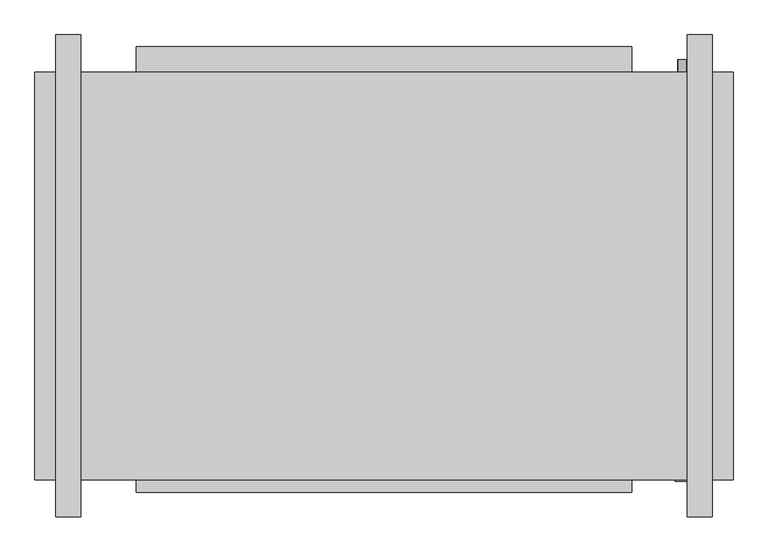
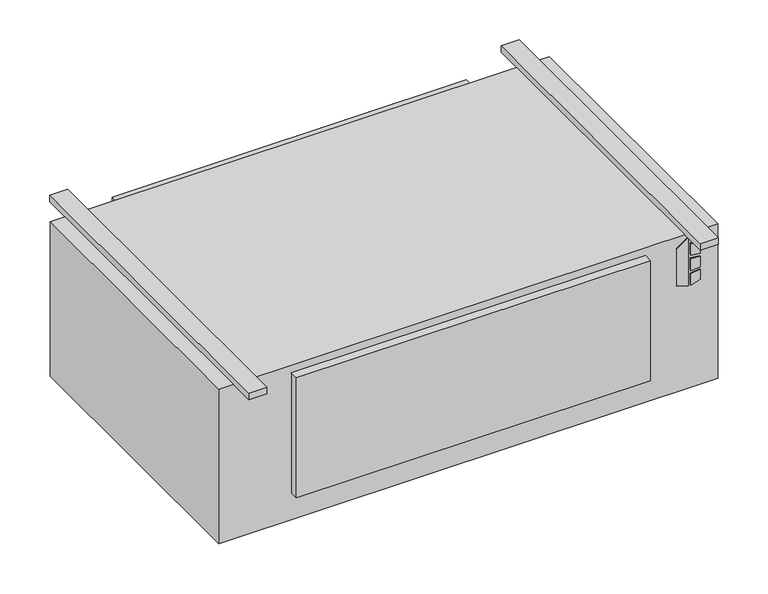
"""IFC4 building model written with IfcOpenShell, lengths in millimetres: proxy geometry, Concealed_High_Capacity_Horizontal_Cabinet_Fan_Coil_Unit_-_HXY_-_IEC_-_2-Pipe_Cool-EHeat_RH_2022 : Size 16 - 277v/60Hz/1Ph - 6 Row 12.0kW."""

from ifc_helpers import new_model, si_unit, point, frame, frame_2d, origin, origin_with_axes, place, context, project, spatial, polyline, circle_curve, trimmed, segment, composite_curve, outline, extrude, source, transform, mapped, element, save


def mechanical_equipment_deb2db8a(model_context):
    return source(origin(), model_context, "Body", "SweptSolid", [
        extrude(outline(polyline([(-142.4519297, 735.0868862), (-152.4, 767.2602728), (-10.2290756, 767.2602728), (-33.2510817, 735.0868862), (-142.4519297, 735.0868862)])), frame((0.0, -649.2875, 0.0), z_axis=(0.0, 1.0, 0.0), x_axis=(0.0, 0.0, 1.0)), (0.0, 0.0, 1.0), 3.175),
        extrude(outline(polyline([(-63.4526443, 774.0186058), (-66.6550368, 800.1), (-37.4261958, 800.1), (-29.3617807, 774.0186058), (-63.4526443, 774.0186058)])), frame((0.0, -649.2875, 0.0), z_axis=(0.0, 1.0, 0.0), x_axis=(0.0, 0.0, 1.0)), (0.0, 0.0, 1.0), 3.175),
        extrude(outline(polyline([(-115.3161712, 800.1), (-118.9816721, 774.0186058), (-152.4, 774.0186058), (-143.7657628, 800.1), (-115.3161712, 800.1)])), frame((0.0, -649.2875, 0.0), z_axis=(0.0, 1.0, 0.0), x_axis=(0.0, 0.0, 1.0)), (0.0, 0.0, 1.0), 3.175),
        extrude(outline(polyline([(-76.0010097, 800.1), (-73.7191834, 774.0186058), (-109.6567319, 774.0186058), (-106.9154669, 800.1), (-76.0010097, 800.1)])), frame((0.0, -649.2875, 0.0), z_axis=(0.0, 1.0, 0.0), x_axis=(0.0, 0.0, 1.0)), (0.0, 0.0, 1.0), 3.175),
        extrude(outline(composite_curve([segment(trimmed(circle_curve(frame_2d((-406.4, 749.3)), 9.525), [point((-406.4, 739.775))], [point((-406.4, 758.825))], False, "CARTESIAN"), True, "CONTINUOUS"), segment(trimmed(circle_curve(frame_2d((-406.4, 749.3)), 9.525), [point((-406.4, 758.825))], [point((-406.4, 739.775))], False, "CARTESIAN"), True, "CONTINUOUS")], self_intersect=False)), frame((0.0, 169.8625, 0.0), z_axis=(0.0, 1.0, 0.0), x_axis=(0.0, 0.0, 1.0)), (0.0, 0.0, 1.0), 25.4),
        extrude(outline(composite_curve([segment(trimmed(circle_curve(frame_2d((-330.2, 749.3)), 7.9375), [point((-330.2, 741.3625))], [point((-330.2, 757.2375))], False, "CARTESIAN"), True, "CONTINUOUS"), segment(trimmed(circle_curve(frame_2d((-330.2, 749.3)), 7.9375), [point((-330.2, 757.2375))], [point((-330.2, 741.3625))], False, "CARTESIAN"), True, "CONTINUOUS")], self_intersect=False)), frame((0.0, 169.8625, 0.0), z_axis=(0.0, 1.0, 0.0), x_axis=(0.0, 0.0, 1.0)), (0.0, 0.0, 1.0), 25.4),
        extrude(outline(composite_curve([segment(trimmed(circle_curve(frame_2d((-254.0, 749.3)), 7.9375), [point((-254.0, 741.3625))], [point((-254.0, 757.2375))], False, "CARTESIAN"), True, "CONTINUOUS"), segment(trimmed(circle_curve(frame_2d((-254.0, 749.3)), 7.9375), [point((-254.0, 757.2375))], [point((-254.0, 741.3625))], False, "CARTESIAN"), True, "CONTINUOUS")], self_intersect=False)), frame((0.0, 169.8625, 0.0), z_axis=(0.0, 1.0, 0.0), x_axis=(0.0, 0.0, 1.0)), (0.0, 0.0, 1.0), 25.4),
        extrude(outline(polyline([(850.9, 169.8625), (850.9, -646.1125), (-546.1, -646.1125), (-546.1, 169.8625), (850.9, 169.8625)])), frame((0.0, 0.0, -457.2), z_axis=(0.0, 0.0, 1.0), x_axis=(1.0, 0.0, 0.0)), (0.0, 0.0, 1.0), 457.2),
        extrude(outline(polyline([(-342.9, 220.6625), (647.7, 220.6625), (647.7, 169.8625), (-342.9, 169.8625), (-342.9, 220.6625)])), frame((0.0, 0.0, -377.825), z_axis=(0.0, 0.0, 1.0), x_axis=(1.0, 0.0, 0.0)), (0.0, 0.0, 1.0), 349.25),
        extrude(outline(polyline([(-454.025, 244.475), (-454.025, -720.725), (-504.825, -720.725), (-504.825, 244.475), (-454.025, 244.475)])), origin_with_axes(), (0.0, 0.0, 1.0), 19.05),
        extrude(outline(polyline([(809.625, 244.475), (809.625, -720.725), (758.825, -720.725), (758.825, 244.475), (809.625, 244.475)])), origin_with_axes(), (0.0, 0.0, 1.0), 19.05),
        extrude(outline(polyline([(647.7, -671.5125), (-342.9, -671.5125), (-342.9, -646.1125), (647.7, -646.1125), (647.7, -671.5125)])), frame((0.0, 0.0, -377.825), z_axis=(0.0, 0.0, 1.0), x_axis=(1.0, 0.0, 0.0)), (0.0, 0.0, 1.0), 355.6),
    ])


if __name__ == "__main__":
    model = new_model("IFC4")
    model_context = context("Model", 3, world=origin())
    ifc_project = project(units=[si_unit("LENGTHUNIT", "METRE", prefix="MILLI")], contexts=[model_context])
    site = spatial("IfcSite", under=ifc_project)
    building = spatial("IfcBuilding", under=site)
    placement = place(None, origin())
    mechanical_equipment_shape = mechanical_equipment_deb2db8a(model_context)
    element("IfcBuildingElementProxy", 1, Name="Concealed_High_Capacity_Horizontal_Cabinet_Fan_Coil_Unit_-_HXY_-_IEC_-_2-Pipe_Cool-EHeat_RH_2022 : Size 16 - 277v/60Hz/1Ph - 6 Row 12.0kW", ObjectType="Concealed_High_Capacity_Horizontal_Cabinet_Fan_Coil_Unit_-_HXY_-_IEC_-_2-Pipe_Cool-EHeat_RH_2022 : Size 16 - 277v/60Hz/1Ph - 6 Row 12.0kW", at=placement, inside=building, context=model_context, shape_type="MappedRepresentation", body=[
        mapped(mechanical_equipment_shape, transform((0.0, 0.0, 0.0), x_axis=(1.0, 0.0, 0.0), y_axis=(0.0, 1.0, 0.0), z_axis=(0.0, 0.0, 1.0))),
    ])
    save(model, "model.ifc")
